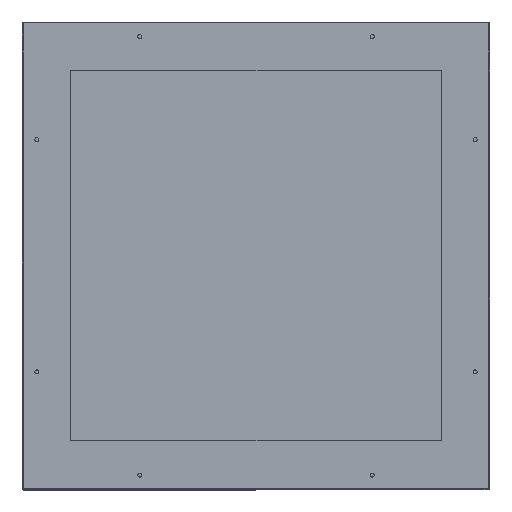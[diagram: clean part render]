
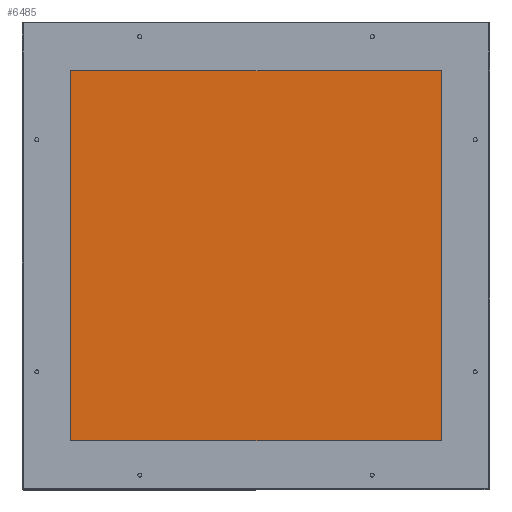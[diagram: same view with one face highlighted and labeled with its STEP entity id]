
A CAD part, top view. The second image highlights one B-rep face of the part: STEP entity #6485.
In plain terms, the highlighted planar face has unit normal (0, 0, 1).
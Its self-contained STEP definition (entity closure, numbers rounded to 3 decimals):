
#598=FACE_OUTER_BOUND('',#925,.T.);
#925=EDGE_LOOP('',(#4332,#4333,#4334,#4335));
#1384=LINE('',#9338,#2035);
#1389=LINE('',#9348,#2040);
#1391=LINE('',#9352,#2042);
#1393=LINE('',#9355,#2044);
#2035=VECTOR('',#7447,10.);
#2040=VECTOR('',#7456,10.);
#2042=VECTOR('',#7460,10.);
#2044=VECTOR('',#7464,10.);
#2686=VERTEX_POINT('',#9335);
#2687=VERTEX_POINT('',#9337);
#2690=VERTEX_POINT('',#9347);
#2691=VERTEX_POINT('',#9351);
#3337=EDGE_CURVE('',#2687,#2686,#1384,.T.);
#3342=EDGE_CURVE('',#2690,#2687,#1389,.T.);
#3344=EDGE_CURVE('',#2691,#2690,#1391,.T.);
#3346=EDGE_CURVE('',#2686,#2691,#1393,.T.);
#4332=ORIENTED_EDGE('',*,*,#3337,.T.);
#4333=ORIENTED_EDGE('',*,*,#3346,.T.);
#4334=ORIENTED_EDGE('',*,*,#3344,.T.);
#4335=ORIENTED_EDGE('',*,*,#3342,.T.);
#6271=PLANE('',#6828);
#6485=ADVANCED_FACE('',(#598),#6271,.T.);
#6828=AXIS2_PLACEMENT_3D('',#9356,#7465,#7466);
#7447=DIRECTION('',(1.,0.,0.));
#7456=DIRECTION('',(0.,-1.,0.));
#7460=DIRECTION('',(-1.,0.,0.));
#7464=DIRECTION('',(0.,1.,0.));
#7465=DIRECTION('center_axis',(0.,0.,1.));
#7466=DIRECTION('ref_axis',(-1.,0.,0.));
#9335=CARTESIAN_POINT('',(3668.344,-317.501,-1464.163));
#9337=CARTESIAN_POINT('',(3373.344,-317.501,-1464.163));
#9338=CARTESIAN_POINT('',(3668.344,-317.501,-1464.163));
#9347=CARTESIAN_POINT('',(3373.344,-22.501,-1464.163));
#9348=CARTESIAN_POINT('',(3373.344,-317.501,-1464.163));
#9351=CARTESIAN_POINT('',(3668.344,-22.501,-1464.163));
#9352=CARTESIAN_POINT('',(3373.344,-22.501,-1464.163));
#9355=CARTESIAN_POINT('',(3668.344,-22.501,-1464.163));
#9356=CARTESIAN_POINT('Origin',(3520.844,-170.001,-1464.163));
